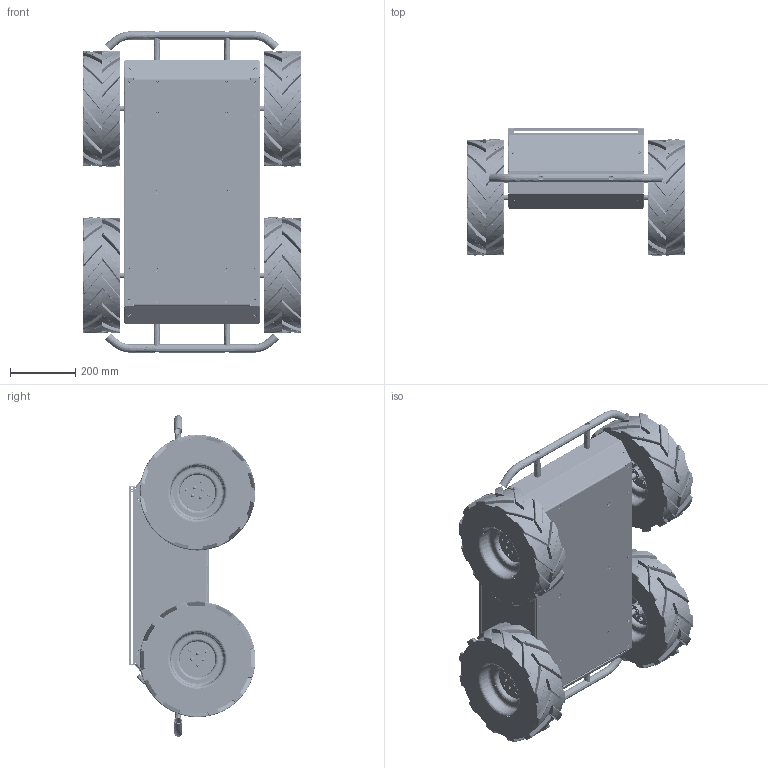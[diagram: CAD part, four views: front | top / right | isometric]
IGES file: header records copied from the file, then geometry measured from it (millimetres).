
Start section: SolidWorks IGES file using analytic representation for surfaces
Global section: file name: C:\Personal - pwmartin\CPR\svn\a200\mech\trunk\Full System Base\A200 Base Platform ass'y.IGS; native system: SolidWorks 2010; preprocessor: SolidWorks 2010; author: Administrator; date: 110426.114013; units: millimetre
Bounding box: 669.37 x 389.3 x 987.4 mm (x, y, z)
Surface area: 3907595.3 mm2 (no closed solid volume)
Topology: 0 solids, 0 shells, 2009 faces, 40074 edges, 39960 vertices
Faces by surface type: bspline 1077, revolution 932
